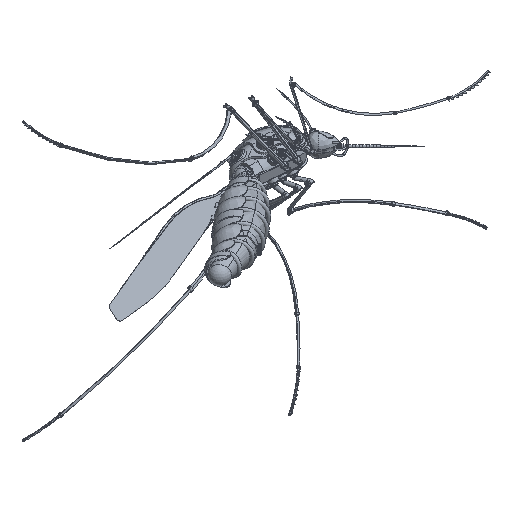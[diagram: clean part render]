
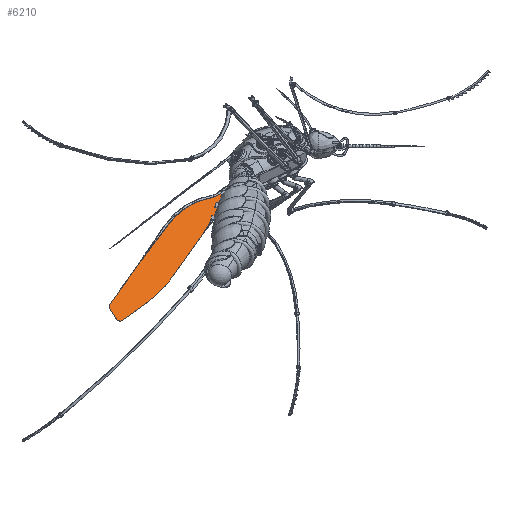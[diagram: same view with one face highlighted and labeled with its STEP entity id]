
A CAD part, isometric view. The second image highlights one B-rep face of the part: STEP entity #6210.
In plain terms, the highlighted planar face has unit normal (0.101, -0.741, 0.664) as drawn and (0, -1, 0) by its records, which use the part's own axes.
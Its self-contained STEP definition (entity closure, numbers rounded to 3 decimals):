
#6210 = ADVANCED_FACE( '', ( #13833 ), #13834, .F. );
#13833 = FACE_OUTER_BOUND( '', #24352, .T. );
#13834 = PLANE( '', #24353 );
#24352 = EDGE_LOOP( '', ( #44045, #44046, #44047, #44048, #44049, #44050, #44051, #44052, #44053, #44054, #44055, #44056, #44057, #44058, #44059, #44060 ) );
#24353 = AXIS2_PLACEMENT_3D( '', #44061, #44062, #44063 );
#44045 = ORIENTED_EDGE( '', *, *, #63746, .F. );
#44046 = ORIENTED_EDGE( '', *, *, #56742, .F. );
#44047 = ORIENTED_EDGE( '', *, *, #63747, .F. );
#44048 = ORIENTED_EDGE( '', *, *, #62226, .F. );
#44049 = ORIENTED_EDGE( '', *, *, #63748, .F. );
#44050 = ORIENTED_EDGE( '', *, *, #63749, .F. );
#44051 = ORIENTED_EDGE( '', *, *, #63381, .F. );
#44052 = ORIENTED_EDGE( '', *, *, #63750, .F. );
#44053 = ORIENTED_EDGE( '', *, *, #58325, .F. );
#44054 = ORIENTED_EDGE( '', *, *, #58324, .F. );
#44055 = ORIENTED_EDGE( '', *, *, #63751, .F. );
#44056 = ORIENTED_EDGE( '', *, *, #63752, .F. );
#44057 = ORIENTED_EDGE( '', *, *, #63753, .T. );
#44058 = ORIENTED_EDGE( '', *, *, #63754, .T. );
#44059 = ORIENTED_EDGE( '', *, *, #63755, .F. );
#44060 = ORIENTED_EDGE( '', *, *, #63756, .F. );
#44061 = CARTESIAN_POINT( '', ( 16., 0., 3.341 ) );
#44062 = DIRECTION( '', ( 0., 1., 0. ) );
#44063 = DIRECTION( '', ( 0., 0., 1. ) );
#56742 = EDGE_CURVE( '', #67261, #67257, #67263, .T. );
#58324 = EDGE_CURVE( '', #70048, #70050, #70051, .F. );
#58325 = EDGE_CURVE( '', #70050, #70052, #70053, .F. );
#62226 = EDGE_CURVE( '', #76256, #76257, #76258, .T. );
#63381 = EDGE_CURVE( '', #77924, #77925, #77926, .T. );
#63746 = EDGE_CURVE( '', #67257, #78422, #78423, .F. );
#63747 = EDGE_CURVE( '', #76257, #67261, #78424, .T. );
#63748 = EDGE_CURVE( '', #78425, #76256, #78426, .T. );
#63749 = EDGE_CURVE( '', #77925, #78425, #78427, .T. );
#63750 = EDGE_CURVE( '', #70052, #77924, #78428, .T. );
#63751 = EDGE_CURVE( '', #78429, #70048, #78430, .F. );
#63752 = EDGE_CURVE( '', #78431, #78429, #78432, .F. );
#63753 = EDGE_CURVE( '', #78431, #78433, #78434, .T. );
#63754 = EDGE_CURVE( '', #78433, #78435, #78436, .T. );
#63755 = EDGE_CURVE( '', #78437, #78435, #78438, .F. );
#63756 = EDGE_CURVE( '', #78422, #78437, #78439, .F. );
#67257 = VERTEX_POINT( '', #82803 );
#67261 = VERTEX_POINT( '', #82871 );
#67263 = LINE( '', #82874, #82875 );
#70048 = VERTEX_POINT( '', #88462 );
#70050 = VERTEX_POINT( '', #88464 );
#70051 = CIRCLE( '', #88465, 300. );
#70052 = VERTEX_POINT( '', #88466 );
#70053 = CIRCLE( '', #88467, 300. );
#76256 = VERTEX_POINT( '', #101530 );
#76257 = VERTEX_POINT( '', #101531 );
#76258 = LINE( '', #101532, #101533 );
#77924 = VERTEX_POINT( '', #105357 );
#77925 = VERTEX_POINT( '', #105358 );
#77926 = CIRCLE( '', #105359, 150. );
#78422 = VERTEX_POINT( '', #106395 );
#78423 = CIRCLE( '', #106396, 1600. );
#78424 = CIRCLE( '', #106397, 5. );
#78425 = VERTEX_POINT( '', #106398 );
#78426 = CIRCLE( '', #106399, 5. );
#78427 = LINE( '', #106400, #106401 );
#78428 = LINE( '', #106402, #106403 );
#78429 = VERTEX_POINT( '', #106404 );
#78430 = CIRCLE( '', #106405, 49. );
#78431 = VERTEX_POINT( '', #106406 );
#78432 = CIRCLE( '', #106407, 0.5 );
#78433 = VERTEX_POINT( '', #106408 );
#78434 = LINE( '', #106409, #106410 );
#78435 = VERTEX_POINT( '', #106411 );
#78436 = LINE( '', #106412, #106413 );
#78437 = VERTEX_POINT( '', #106414 );
#78438 = CIRCLE( '', #106415, 21. );
#78439 = CIRCLE( '', #106416, 99. );
#82803 = CARTESIAN_POINT( '', ( 134.996, 0., 8.829 ) );
#82871 = CARTESIAN_POINT( '', ( 186.269, 0., 22.28 ) );
#82874 = CARTESIAN_POINT( '', ( 186.269, 0., 22.28 ) );
#82875 = VECTOR( '', #114322, 1000. );
#88462 = CARTESIAN_POINT( '', ( 34.993, 0., 13.177 ) );
#88464 = CARTESIAN_POINT( '', ( 54.053, 0., 19.32 ) );
#88465 = AXIS2_PLACEMENT_3D( '', #116005, #116006, #116007 );
#88466 = CARTESIAN_POINT( '', ( 52.079, 0., 18.957 ) );
#88467 = AXIS2_PLACEMENT_3D( '', #116008, #116009, #116010 );
#101530 = CARTESIAN_POINT( '', ( 190., 0., 35. ) );
#101531 = CARTESIAN_POINT( '', ( 190., 0., 27.117 ) );
#101532 = CARTESIAN_POINT( '', ( 190., 0., 35. ) );
#101533 = VECTOR( '', #119890, 1000. );
#105357 = CARTESIAN_POINT( '', ( 111.539, 0., 34.889 ) );
#105358 = CARTESIAN_POINT( '', ( 150.362, 0., 40. ) );
#105359 = AXIS2_PLACEMENT_3D( '', #121021, #121022, #121023 );
#106395 = CARTESIAN_POINT( '', ( 87.666, 0., -2.864 ) );
#106396 = AXIS2_PLACEMENT_3D( '', #121396, #121397, #121398 );
#106397 = AXIS2_PLACEMENT_3D( '', #121399, #121400, #121401 );
#106398 = CARTESIAN_POINT( '', ( 185., 0., 40. ) );
#106399 = AXIS2_PLACEMENT_3D( '', #121402, #121403, #121404 );
#106400 = CARTESIAN_POINT( '', ( 150.362, 0., 40. ) );
#106401 = VECTOR( '', #121405, 1000. );
#106402 = CARTESIAN_POINT( '', ( 34.7, 0., 14.3 ) );
#106403 = VECTOR( '', #121406, 1000. );
#106404 = CARTESIAN_POINT( '', ( 16.179, 0., 3.383 ) );
#106405 = AXIS2_PLACEMENT_3D( '', #121407, #121408, #121409 );
#106406 = CARTESIAN_POINT( '', ( 16., 0., 3. ) );
#106407 = AXIS2_PLACEMENT_3D( '', #121410, #121411, #121412 );
#106408 = CARTESIAN_POINT( '', ( 16., 0., 1. ) );
#106409 = CARTESIAN_POINT( '', ( 16., 0., 3. ) );
#106410 = VECTOR( '', #121413, 1000. );
#106411 = CARTESIAN_POINT( '', ( 21., 0., 1. ) );
#106412 = CARTESIAN_POINT( '', ( 21., 0., 1. ) );
#106413 = VECTOR( '', #121414, 1000. );
#106414 = CARTESIAN_POINT( '', ( 28.182, 0., -0.266 ) );
#106415 = AXIS2_PLACEMENT_3D( '', #121415, #121416, #121417 );
#106416 = AXIS2_PLACEMENT_3D( '', #121418, #121419, #121420 );
#114322 = DIRECTION( '', ( -0.967, 0., -0.254 ) );
#116005 = CARTESIAN_POINT( '', ( -47.445, 0., 301.628 ) );
#116006 = DIRECTION( '', ( 0., 1., 0. ) );
#116007 = DIRECTION( '', ( 0., 0., 1. ) );
#116008 = CARTESIAN_POINT( '', ( 107.307, 0., -275.916 ) );
#116009 = DIRECTION( '', ( 0., 1., 0. ) );
#116010 = DIRECTION( '', ( 0., 0., 1. ) );
#119890 = DIRECTION( '', ( 0., 0., -1. ) );
#121021 = CARTESIAN_POINT( '', ( 150.362, 0., -110. ) );
#121022 = DIRECTION( '', ( 0., 1., 0. ) );
#121023 = DIRECTION( '', ( 1., 0., 0. ) );
#121396 = CARTESIAN_POINT( '', ( 495.02, 0., -1550.139 ) );
#121397 = DIRECTION( '', ( 0., 1., 0. ) );
#121398 = DIRECTION( '', ( 0., 0., 1. ) );
#121399 = CARTESIAN_POINT( '', ( 185., 0., 27.117 ) );
#121400 = DIRECTION( '', ( 0., 1., 0. ) );
#121401 = DIRECTION( '', ( 1., 0., 0. ) );
#121402 = CARTESIAN_POINT( '', ( 185., 0., 35. ) );
#121403 = DIRECTION( '', ( 0., 1., 0. ) );
#121404 = DIRECTION( '', ( 1., 0., 0. ) );
#121405 = DIRECTION( '', ( 1., 0., 0. ) );
#121406 = DIRECTION( '', ( 0.966, 0., 0.259 ) );
#121407 = CARTESIAN_POINT( '', ( 47.675, 0., -34.153 ) );
#121408 = DIRECTION( '', ( 0., -1., 0. ) );
#121409 = DIRECTION( '', ( 0., 0., -1. ) );
#121410 = CARTESIAN_POINT( '', ( 16.5, 0., 3. ) );
#121411 = DIRECTION( '', ( 0., -1., 0. ) );
#121412 = DIRECTION( '', ( 0., 0., -1. ) );
#121413 = DIRECTION( '', ( 0., 0., -1. ) );
#121414 = DIRECTION( '', ( 1., 0., 0. ) );
#121415 = CARTESIAN_POINT( '', ( 21., 0., -20. ) );
#121416 = DIRECTION( '', ( 0., 1., 0. ) );
#121417 = DIRECTION( '', ( 0., 0., 1. ) );
#121418 = CARTESIAN_POINT( '', ( 62.042, 0., 92.763 ) );
#121419 = DIRECTION( '', ( 0., -1., 0. ) );
#121420 = DIRECTION( '', ( 0., 0., -1. ) );
